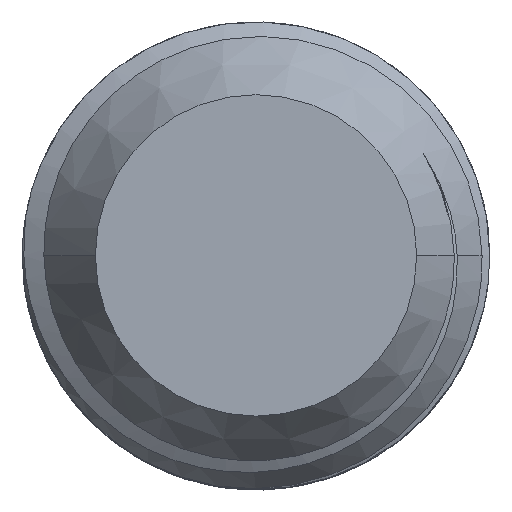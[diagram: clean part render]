
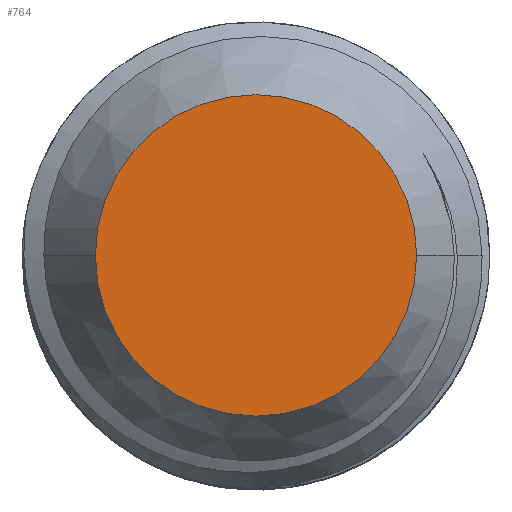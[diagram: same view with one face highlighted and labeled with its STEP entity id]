
A CAD part, top view. The second image highlights one B-rep face of the part: STEP entity #764.
In plain terms, the highlighted planar face has unit normal (0, 0, 1).
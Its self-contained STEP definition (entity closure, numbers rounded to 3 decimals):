
#2 = CARTESIAN_POINT ( 'NONE',  ( 0., 0., 10. ) ) ;
#139 = AXIS2_PLACEMENT_3D ( 'NONE', #1099, #848, #601 ) ;
#388 = DIRECTION ( 'NONE',  ( 1., 0., 0. ) ) ;
#442 = ORIENTED_EDGE ( 'NONE', *, *, #1409, .F. ) ;
#517 = FACE_OUTER_BOUND ( 'NONE', #2121, .T. ) ;
#595 = AXIS2_PLACEMENT_3D ( 'NONE', #2, #2173, #1926 ) ;
#601 = DIRECTION ( 'NONE',  ( -1., 0., 0. ) ) ;
#629 = DIRECTION ( 'NONE',  ( 0., 0., 1. ) ) ;
#630 = CIRCLE ( 'NONE', #139, 2.75 ) ;
#657 = CARTESIAN_POINT ( 'NONE',  ( -2.75, 0., 10. ) ) ;
#764 = ADVANCED_FACE ( 'NONE', ( #517 ), #1130, .T. ) ;
#784 = VERTEX_POINT ( 'NONE', #1564 ) ;
#848 = DIRECTION ( 'NONE',  ( 0., 0., -1. ) ) ;
#878 = CARTESIAN_POINT ( 'NONE',  ( 0., 0., 10. ) ) ;
#1099 = CARTESIAN_POINT ( 'NONE',  ( 0., 0., 10. ) ) ;
#1100 = ORIENTED_EDGE ( 'NONE', *, *, #1743, .F. ) ;
#1130 = PLANE ( 'NONE',  #2212 ) ;
#1141 = VERTEX_POINT ( 'NONE', #657 ) ;
#1409 = EDGE_CURVE ( 'NONE', #1141, #784, #1790, .T. ) ;
#1564 = CARTESIAN_POINT ( 'NONE',  ( 2.75, 0., 10. ) ) ;
#1743 = EDGE_CURVE ( 'NONE', #784, #1141, #630, .T. ) ;
#1790 = CIRCLE ( 'NONE', #595, 2.75 ) ;
#1926 = DIRECTION ( 'NONE',  ( -1., 0., 0. ) ) ;
#2121 = EDGE_LOOP ( 'NONE', ( #442, #1100 ) ) ;
#2173 = DIRECTION ( 'NONE',  ( 0., 0., -1. ) ) ;
#2212 = AXIS2_PLACEMENT_3D ( 'NONE', #878, #629, #388 ) ;
